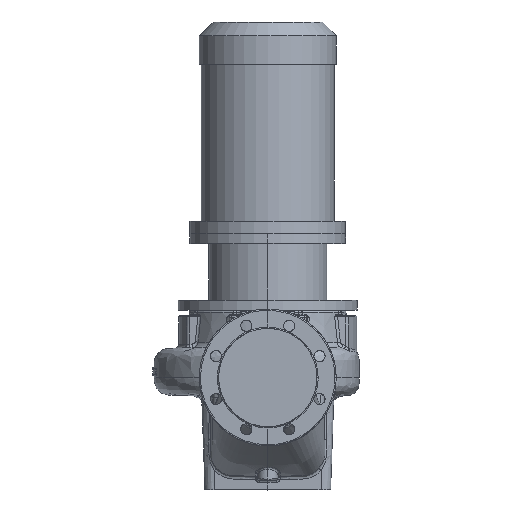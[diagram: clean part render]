
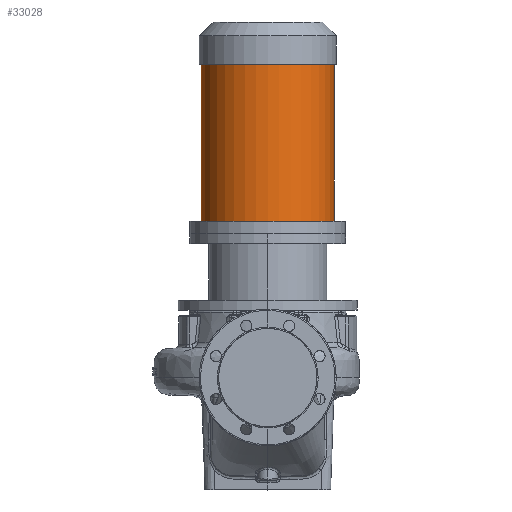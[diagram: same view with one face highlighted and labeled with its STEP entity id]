
A CAD part, top view. The second image highlights one B-rep face of the part: STEP entity #33028.
In plain terms, the highlighted cylindrical face has radius 107 mm (diameter 214 mm), a partial arc.
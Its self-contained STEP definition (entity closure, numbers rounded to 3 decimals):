
#1388 = EDGE_CURVE ( 'NONE', #14004, #27579, #43706, .T. ) ;
#2859 = CARTESIAN_POINT ( 'NONE',  ( -107., 251.8, 0. ) ) ;
#7871 = AXIS2_PLACEMENT_3D ( 'NONE', #13750, #36059, #47636 ) ;
#9772 = CARTESIAN_POINT ( 'NONE',  ( 107., 231.8, 0. ) ) ;
#9946 = AXIS2_PLACEMENT_3D ( 'NONE', #57496, #33679, #52020 ) ;
#13750 = CARTESIAN_POINT ( 'NONE',  ( 0., 231.8, 0. ) ) ;
#14004 = VERTEX_POINT ( 'NONE', #71225 ) ;
#14240 = CIRCLE ( 'NONE', #9946, 107. ) ;
#18219 = VERTEX_POINT ( 'NONE', #2859 ) ;
#18686 = EDGE_CURVE ( 'NONE', #14004, #39026, #14240, .T. ) ;
#25563 = CARTESIAN_POINT ( 'NONE',  ( 0., 251.8, 0. ) ) ;
#27579 = VERTEX_POINT ( 'NONE', #55343 ) ;
#27769 = DIRECTION ( 'NONE',  ( 0., -1., 0. ) ) ;
#28428 = VECTOR ( 'NONE', #27769, 1000. ) ;
#28760 = ORIENTED_EDGE ( 'NONE', *, *, #18686, .T. ) ;
#33028 = ADVANCED_FACE ( 'NONE', ( #48977 ), #62373, .T. ) ;
#33679 = DIRECTION ( 'NONE',  ( 0., -1., 0. ) ) ;
#36059 = DIRECTION ( 'NONE',  ( 0., -1., 0. ) ) ;
#39026 = VERTEX_POINT ( 'NONE', #42721 ) ;
#40331 = VECTOR ( 'NONE', #71683, 1000. ) ;
#42156 = LINE ( 'NONE', #48670, #40331 ) ;
#42721 = CARTESIAN_POINT ( 'NONE',  ( -107., 503.8, 0. ) ) ;
#43706 = LINE ( 'NONE', #9772, #28428 ) ;
#45292 = EDGE_CURVE ( 'NONE', #39026, #18219, #42156, .T. ) ;
#46746 = AXIS2_PLACEMENT_3D ( 'NONE', #25563, #59639, #65687 ) ;
#47636 = DIRECTION ( 'NONE',  ( -1., 0., 0. ) ) ;
#48449 = ORIENTED_EDGE ( 'NONE', *, *, #1388, .F. ) ;
#48670 = CARTESIAN_POINT ( 'NONE',  ( -107., 231.8, 0. ) ) ;
#48860 = ORIENTED_EDGE ( 'NONE', *, *, #72514, .F. ) ;
#48977 = FACE_OUTER_BOUND ( 'NONE', #50592, .T. ) ;
#50592 = EDGE_LOOP ( 'NONE', ( #48449, #28760, #54109, #48860 ) ) ;
#52020 = DIRECTION ( 'NONE',  ( -1., 0., 0. ) ) ;
#54109 = ORIENTED_EDGE ( 'NONE', *, *, #45292, .T. ) ;
#55343 = CARTESIAN_POINT ( 'NONE',  ( 107., 251.8, 0. ) ) ;
#57496 = CARTESIAN_POINT ( 'NONE',  ( 0., 503.8, 0. ) ) ;
#59639 = DIRECTION ( 'NONE',  ( 0., -1., 0. ) ) ;
#62373 = CYLINDRICAL_SURFACE ( 'NONE', #7871, 107. ) ;
#65687 = DIRECTION ( 'NONE',  ( -1., 0., 0. ) ) ;
#67905 = CIRCLE ( 'NONE', #46746, 107. ) ;
#71225 = CARTESIAN_POINT ( 'NONE',  ( 107., 503.8, 0. ) ) ;
#71683 = DIRECTION ( 'NONE',  ( 0., -1., 0. ) ) ;
#72514 = EDGE_CURVE ( 'NONE', #27579, #18219, #67905, .T. ) ;
